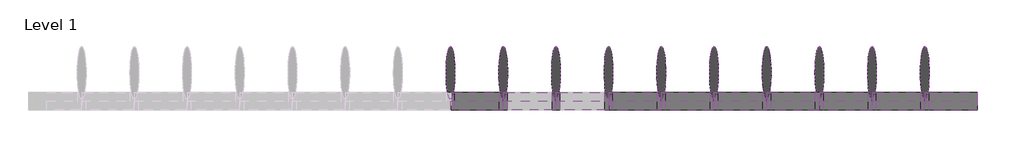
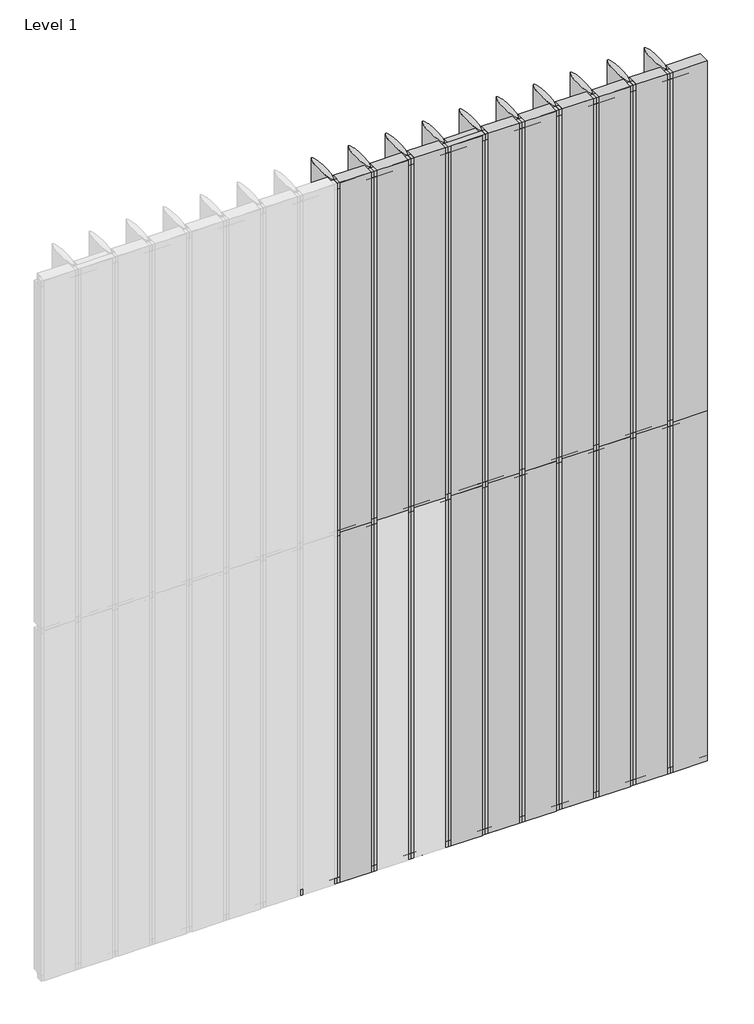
# One storey, part 2 of 2: 51 members, 38 plates.
"""IFC4 building model written with IfcOpenShell, lengths in millimetres."""

from ifc_helpers import new_model, si_unit, origin, place, context, project, spatial, transform, mapped, element, save
from components import rectangular_mullion_489e5dd7, rectangular_mullion_d9db7a7c, rectangular_mullion_bcb65166, rectangular_mullion_906318ec, empty_system_panel_empty_25b61279, empty_system_panel_empty_de0951d3, empty_system_panel_empty_eacbfc0b

model = new_model("IFC4")

# Units and contexts
model_context = context("Model", 3, world=origin())
ifc_project = project(units=[si_unit("LENGTHUNIT", "METRE", prefix="MILLI")], contexts=[model_context])

# Site, building, storey
site = spatial("IfcSite", under=ifc_project)
building = spatial("IfcBuilding", under=site)
storey = spatial("IfcBuildingStorey", under=building, Name="Level 1", Elevation=0.0)

# Members
placement = place(None, origin())
rectangular_mullion_shape = rectangular_mullion_489e5dd7(model_context)
element("IfcMember", 1, ObjectType="Rectangular Mullion : RSen_21_CWM_blade - 300 ellips - 0°_gen_duco projects", at=placement, inside=storey, context=model_context, shape_type="MappedRepresentation", body=[
    mapped(rectangular_mullion_shape, transform((5700.0, 3000.0, 0.0), x_axis=(-1.0, 0.0, 0.0), y_axis=(0.0, 1.0, 0.0), z_axis=(0.0, 0.0, -1.0))),
])
element("IfcMember", 2, ObjectType="Rectangular Mullion : RSen_21_CWM_blade - 300 ellips - 0°_gen_duco projects", at=placement, inside=storey, context=model_context, shape_type="MappedRepresentation", body=[
    mapped(rectangular_mullion_shape, transform((5400.0, 3000.0, 0.0), x_axis=(-1.0, 0.0, 0.0), y_axis=(0.0, 1.0, 0.0), z_axis=(0.0, 0.0, -1.0))),
])
element("IfcMember", 3, ObjectType="Rectangular Mullion : RSen_21_CWM_blade - 300 ellips - 0°_gen_duco projects", at=placement, inside=storey, context=model_context, shape_type="MappedRepresentation", body=[
    mapped(rectangular_mullion_shape, transform((5100.0, 3000.0, 0.0), x_axis=(-1.0, 0.0, 0.0), y_axis=(0.0, 1.0, 0.0), z_axis=(0.0, 0.0, -1.0))),
])
element("IfcMember", 4, ObjectType="Rectangular Mullion : RSen_21_CWM_blade - 300 ellips - 0°_gen_duco projects", at=placement, inside=storey, context=model_context, shape_type="MappedRepresentation", body=[
    mapped(rectangular_mullion_shape, transform((4800.0, 3000.0, 0.0), x_axis=(-1.0, 0.0, 0.0), y_axis=(0.0, 1.0, 0.0), z_axis=(0.0, 0.0, -1.0))),
])
element("IfcMember", 5, ObjectType="Rectangular Mullion : RSen_21_CWM_blade - 300 ellips - 0°_gen_duco projects", at=placement, inside=storey, context=model_context, shape_type="MappedRepresentation", body=[
    mapped(rectangular_mullion_shape, transform((4500.0, 3000.0, 0.0), x_axis=(-1.0, 0.0, 0.0), y_axis=(0.0, 1.0, 0.0), z_axis=(0.0, 0.0, -1.0))),
])
element("IfcMember", 6, ObjectType="Rectangular Mullion : RSen_21_CWM_blade - 300 ellips - 0°_gen_duco projects", at=placement, inside=storey, context=model_context, shape_type="MappedRepresentation", body=[
    mapped(rectangular_mullion_shape, transform((4200.0, 3000.0, 0.0), x_axis=(-1.0, 0.0, 0.0), y_axis=(0.0, 1.0, 0.0), z_axis=(0.0, 0.0, -1.0))),
])
element("IfcMember", 7, ObjectType="Rectangular Mullion : RSen_21_CWM_blade - 300 ellips - 0°_gen_duco projects", at=placement, inside=storey, context=model_context, shape_type="MappedRepresentation", body=[
    mapped(rectangular_mullion_shape, transform((3900.0, 3000.0, 0.0), x_axis=(-1.0, 0.0, 0.0), y_axis=(0.0, 1.0, 0.0), z_axis=(0.0, 0.0, -1.0))),
])
element("IfcMember", 8, ObjectType="Rectangular Mullion : RSen_21_CWM_blade - 300 ellips - 0°_gen_duco projects", at=placement, inside=storey, context=model_context, shape_type="MappedRepresentation", body=[
    mapped(rectangular_mullion_shape, transform((3600.0, 3000.0, 0.0), x_axis=(-1.0, 0.0, 0.0), y_axis=(0.0, 1.0, 0.0), z_axis=(0.0, 0.0, -1.0))),
])
element("IfcMember", 9, ObjectType="Rectangular Mullion : RSen_21_CWM_blade - 300 ellips - 0°_gen_duco projects", at=placement, inside=storey, context=model_context, shape_type="MappedRepresentation", body=[
    mapped(rectangular_mullion_shape, transform((3300.0, 3000.0, 0.0), x_axis=(-1.0, 0.0, 0.0), y_axis=(0.0, 1.0, 0.0), z_axis=(0.0, 0.0, -1.0))),
])
element("IfcMember", 10, ObjectType="Rectangular Mullion : RSen_21_CWM_blade - 300 ellips - 0°_gen_duco projects", at=placement, inside=storey, context=model_context, shape_type="MappedRepresentation", body=[
    mapped(rectangular_mullion_shape, transform((3000.0, 3000.0, 0.0), x_axis=(-1.0, 0.0, 0.0), y_axis=(0.0, 1.0, 0.0), z_axis=(0.0, 0.0, -1.0))),
])
element("IfcMember", 11, ObjectType="Rectangular Mullion : RSen_21_CWM_blade - 300 ellips - 0°_gen_duco projects", at=placement, inside=storey, context=model_context, shape_type="MappedRepresentation", body=[
    mapped(rectangular_mullion_shape, transform((5700.0, 3000.0, 3000.0), x_axis=(-1.0, 0.0, 0.0), y_axis=(0.0, 1.0, 0.0), z_axis=(0.0, 0.0, -1.0))),
])
element("IfcMember", 12, ObjectType="Rectangular Mullion : RSen_21_CWM_blade - 300 ellips - 0°_gen_duco projects", at=placement, inside=storey, context=model_context, shape_type="MappedRepresentation", body=[
    mapped(rectangular_mullion_shape, transform((5400.0, 3000.0, 3000.0), x_axis=(-1.0, 0.0, 0.0), y_axis=(0.0, 1.0, 0.0), z_axis=(0.0, 0.0, -1.0))),
])
element("IfcMember", 13, ObjectType="Rectangular Mullion : RSen_21_CWM_blade - 300 ellips - 0°_gen_duco projects", at=placement, inside=storey, context=model_context, shape_type="MappedRepresentation", body=[
    mapped(rectangular_mullion_shape, transform((5100.0, 3000.0, 3000.0), x_axis=(-1.0, 0.0, 0.0), y_axis=(0.0, 1.0, 0.0), z_axis=(0.0, 0.0, -1.0))),
])
element("IfcMember", 14, ObjectType="Rectangular Mullion : RSen_21_CWM_blade - 300 ellips - 0°_gen_duco projects", at=placement, inside=storey, context=model_context, shape_type="MappedRepresentation", body=[
    mapped(rectangular_mullion_shape, transform((4800.0, 3000.0, 3000.0), x_axis=(-1.0, 0.0, 0.0), y_axis=(0.0, 1.0, 0.0), z_axis=(0.0, 0.0, -1.0))),
])
element("IfcMember", 15, ObjectType="Rectangular Mullion : RSen_21_CWM_blade - 300 ellips - 0°_gen_duco projects", at=placement, inside=storey, context=model_context, shape_type="MappedRepresentation", body=[
    mapped(rectangular_mullion_shape, transform((4500.0, 3000.0, 3000.0), x_axis=(-1.0, 0.0, 0.0), y_axis=(0.0, 1.0, 0.0), z_axis=(0.0, 0.0, -1.0))),
])
element("IfcMember", 16, ObjectType="Rectangular Mullion : RSen_21_CWM_blade - 300 ellips - 0°_gen_duco projects", at=placement, inside=storey, context=model_context, shape_type="MappedRepresentation", body=[
    mapped(rectangular_mullion_shape, transform((4200.0, 3000.0, 3000.0), x_axis=(-1.0, 0.0, 0.0), y_axis=(0.0, 1.0, 0.0), z_axis=(0.0, 0.0, -1.0))),
])
element("IfcMember", 17, ObjectType="Rectangular Mullion : RSen_21_CWM_blade - 300 ellips - 0°_gen_duco projects", at=placement, inside=storey, context=model_context, shape_type="MappedRepresentation", body=[
    mapped(rectangular_mullion_shape, transform((3900.0, 3000.0, 3000.0), x_axis=(-1.0, 0.0, 0.0), y_axis=(0.0, 1.0, 0.0), z_axis=(0.0, 0.0, -1.0))),
])
element("IfcMember", 18, ObjectType="Rectangular Mullion : RSen_21_CWM_blade - 300 ellips - 0°_gen_duco projects", at=placement, inside=storey, context=model_context, shape_type="MappedRepresentation", body=[
    mapped(rectangular_mullion_shape, transform((3600.0, 3000.0, 3000.0), x_axis=(-1.0, 0.0, 0.0), y_axis=(0.0, 1.0, 0.0), z_axis=(0.0, 0.0, -1.0))),
])
element("IfcMember", 19, ObjectType="Rectangular Mullion : RSen_21_CWM_blade - 300 ellips - 0°_gen_duco projects", at=placement, inside=storey, context=model_context, shape_type="MappedRepresentation", body=[
    mapped(rectangular_mullion_shape, transform((3300.0, 3000.0, 3000.0), x_axis=(-1.0, 0.0, 0.0), y_axis=(0.0, 1.0, 0.0), z_axis=(0.0, 0.0, -1.0))),
])
element("IfcMember", 20, ObjectType="Rectangular Mullion : RSen_21_CWM_blade - 300 ellips - 0°_gen_duco projects", at=placement, inside=storey, context=model_context, shape_type="MappedRepresentation", body=[
    mapped(rectangular_mullion_shape, transform((3000.0, 3000.0, 3000.0), x_axis=(-1.0, 0.0, 0.0), y_axis=(0.0, 1.0, 0.0), z_axis=(0.0, 0.0, -1.0))),
])
rectangular_mullion_2_shape = rectangular_mullion_d9db7a7c(model_context)
element("IfcMember", 21, ObjectType="Rectangular Mullion : RSen_21_CWM_support profile 50x50 - right_gen_duco projects", at=placement, inside=storey, context=model_context, shape_type="MappedRepresentation", body=[
    mapped(rectangular_mullion_2_shape, transform((6000.0, 3000.0, 0.0), x_axis=(0.0, 0.0, -1.0), y_axis=(0.0, 1.0, 0.0), z_axis=(1.0, 0.0, 0.0))),
])
rectangular_mullion_3_shape = rectangular_mullion_bcb65166(model_context)
element("IfcMember", 22, ObjectType="Rectangular Mullion : RSen_21_CWM_support profile 50x50 - left_gen_duco projects", at=placement, inside=storey, context=model_context, shape_type="MappedRepresentation", body=[
    mapped(rectangular_mullion_3_shape, transform((5700.0, 3000.0, 6000.0), x_axis=(0.0, 0.0, 1.0), y_axis=(0.0, 1.0, 0.0), z_axis=(-1.0, 0.0, 0.0))),
])
element("IfcMember", 23, ObjectType="Rectangular Mullion : RSen_21_CWM_support profile 50x50 - left_gen_duco projects", at=placement, inside=storey, context=model_context, shape_type="MappedRepresentation", body=[
    mapped(rectangular_mullion_3_shape, transform((5400.0, 3000.0, 6000.0), x_axis=(0.0, 0.0, 1.0), y_axis=(0.0, 1.0, 0.0), z_axis=(-1.0, 0.0, 0.0))),
])
element("IfcMember", 24, ObjectType="Rectangular Mullion : RSen_21_CWM_support profile 50x50 - left_gen_duco projects", at=placement, inside=storey, context=model_context, shape_type="MappedRepresentation", body=[
    mapped(rectangular_mullion_3_shape, transform((5100.0, 3000.0, 6000.0), x_axis=(0.0, 0.0, 1.0), y_axis=(0.0, 1.0, 0.0), z_axis=(-1.0, 0.0, 0.0))),
])
element("IfcMember", 25, ObjectType="Rectangular Mullion : RSen_21_CWM_support profile 50x50 - left_gen_duco projects", at=placement, inside=storey, context=model_context, shape_type="MappedRepresentation", body=[
    mapped(rectangular_mullion_3_shape, transform((4800.0, 3000.0, 6000.0), x_axis=(0.0, 0.0, 1.0), y_axis=(0.0, 1.0, 0.0), z_axis=(-1.0, 0.0, 0.0))),
])
element("IfcMember", 26, ObjectType="Rectangular Mullion : RSen_21_CWM_support profile 50x50 - left_gen_duco projects", at=placement, inside=storey, context=model_context, shape_type="MappedRepresentation", body=[
    mapped(rectangular_mullion_3_shape, transform((4500.0, 3000.0, 6000.0), x_axis=(0.0, 0.0, 1.0), y_axis=(0.0, 1.0, 0.0), z_axis=(-1.0, 0.0, 0.0))),
])
element("IfcMember", 27, ObjectType="Rectangular Mullion : RSen_21_CWM_support profile 50x50 - left_gen_duco projects", at=placement, inside=storey, context=model_context, shape_type="MappedRepresentation", body=[
    mapped(rectangular_mullion_3_shape, transform((4200.0, 3000.0, 6000.0), x_axis=(0.0, 0.0, 1.0), y_axis=(0.0, 1.0, 0.0), z_axis=(-1.0, 0.0, 0.0))),
])
element("IfcMember", 28, ObjectType="Rectangular Mullion : RSen_21_CWM_support profile 50x50 - left_gen_duco projects", at=placement, inside=storey, context=model_context, shape_type="MappedRepresentation", body=[
    mapped(rectangular_mullion_3_shape, transform((3900.0, 3000.0, 6000.0), x_axis=(0.0, 0.0, 1.0), y_axis=(0.0, 1.0, 0.0), z_axis=(-1.0, 0.0, 0.0))),
])
element("IfcMember", 29, ObjectType="Rectangular Mullion : RSen_21_CWM_support profile 50x50 - left_gen_duco projects", at=placement, inside=storey, context=model_context, shape_type="MappedRepresentation", body=[
    mapped(rectangular_mullion_3_shape, transform((3600.0, 3000.0, 6000.0), x_axis=(0.0, 0.0, 1.0), y_axis=(0.0, 1.0, 0.0), z_axis=(-1.0, 0.0, 0.0))),
])
element("IfcMember", 30, ObjectType="Rectangular Mullion : RSen_21_CWM_support profile 50x50 - left_gen_duco projects", at=placement, inside=storey, context=model_context, shape_type="MappedRepresentation", body=[
    mapped(rectangular_mullion_3_shape, transform((3300.0, 3000.0, 6000.0), x_axis=(0.0, 0.0, 1.0), y_axis=(0.0, 1.0, 0.0), z_axis=(-1.0, 0.0, 0.0))),
])
element("IfcMember", 31, ObjectType="Rectangular Mullion : RSen_21_CWM_support profile 50x50 - left_gen_duco projects", at=placement, inside=storey, context=model_context, shape_type="MappedRepresentation", body=[
    mapped(rectangular_mullion_3_shape, transform((3000.0, 3000.0, 6000.0), x_axis=(0.0, 0.0, 1.0), y_axis=(0.0, 1.0, 0.0), z_axis=(-1.0, 0.0, 0.0))),
])
element("IfcMember", 32, ObjectType="Rectangular Mullion : RSen_21_CWM_support profile 50x50 - right_gen_duco projects", at=placement, inside=storey, context=model_context, shape_type="MappedRepresentation", body=[
    mapped(rectangular_mullion_2_shape, transform((5700.0, 3000.0, 0.0), x_axis=(0.0, 0.0, -1.0), y_axis=(0.0, 1.0, 0.0), z_axis=(1.0, 0.0, 0.0))),
])
element("IfcMember", 33, ObjectType="Rectangular Mullion : RSen_21_CWM_support profile 50x50 - right_gen_duco projects", at=placement, inside=storey, context=model_context, shape_type="MappedRepresentation", body=[
    mapped(rectangular_mullion_2_shape, transform((5400.0, 3000.0, 0.0), x_axis=(0.0, 0.0, -1.0), y_axis=(0.0, 1.0, 0.0), z_axis=(1.0, 0.0, 0.0))),
])
element("IfcMember", 34, ObjectType="Rectangular Mullion : RSen_21_CWM_support profile 50x50 - right_gen_duco projects", at=placement, inside=storey, context=model_context, shape_type="MappedRepresentation", body=[
    mapped(rectangular_mullion_2_shape, transform((5100.0, 3000.0, 0.0), x_axis=(0.0, 0.0, -1.0), y_axis=(0.0, 1.0, 0.0), z_axis=(1.0, 0.0, 0.0))),
])
element("IfcMember", 35, ObjectType="Rectangular Mullion : RSen_21_CWM_support profile 50x50 - right_gen_duco projects", at=placement, inside=storey, context=model_context, shape_type="MappedRepresentation", body=[
    mapped(rectangular_mullion_2_shape, transform((4800.0, 3000.0, 0.0), x_axis=(0.0, 0.0, -1.0), y_axis=(0.0, 1.0, 0.0), z_axis=(1.0, 0.0, 0.0))),
])
element("IfcMember", 36, ObjectType="Rectangular Mullion : RSen_21_CWM_support profile 50x50 - right_gen_duco projects", at=placement, inside=storey, context=model_context, shape_type="MappedRepresentation", body=[
    mapped(rectangular_mullion_2_shape, transform((4500.0, 3000.0, 0.0), x_axis=(0.0, 0.0, -1.0), y_axis=(0.0, 1.0, 0.0), z_axis=(1.0, 0.0, 0.0))),
])
element("IfcMember", 37, ObjectType="Rectangular Mullion : RSen_21_CWM_support profile 50x50 - right_gen_duco projects", at=placement, inside=storey, context=model_context, shape_type="MappedRepresentation", body=[
    mapped(rectangular_mullion_2_shape, transform((4200.0, 3000.0, 0.0), x_axis=(0.0, 0.0, -1.0), y_axis=(0.0, 1.0, 0.0), z_axis=(1.0, 0.0, 0.0))),
])
element("IfcMember", 38, ObjectType="Rectangular Mullion : RSen_21_CWM_support profile 50x50 - right_gen_duco projects", at=placement, inside=storey, context=model_context, shape_type="MappedRepresentation", body=[
    mapped(rectangular_mullion_2_shape, transform((3900.0, 3000.0, 0.0), x_axis=(0.0, 0.0, -1.0), y_axis=(0.0, 1.0, 0.0), z_axis=(1.0, 0.0, 0.0))),
])
element("IfcMember", 39, ObjectType="Rectangular Mullion : RSen_21_CWM_support profile 50x50 - right_gen_duco projects", at=placement, inside=storey, context=model_context, shape_type="MappedRepresentation", body=[
    mapped(rectangular_mullion_2_shape, transform((3600.0, 3000.0, 0.0), x_axis=(0.0, 0.0, -1.0), y_axis=(0.0, 1.0, 0.0), z_axis=(1.0, 0.0, 0.0))),
])
element("IfcMember", 40, ObjectType="Rectangular Mullion : RSen_21_CWM_support profile 50x50 - right_gen_duco projects", at=placement, inside=storey, context=model_context, shape_type="MappedRepresentation", body=[
    mapped(rectangular_mullion_2_shape, transform((3300.0, 3000.0, 0.0), x_axis=(0.0, 0.0, -1.0), y_axis=(0.0, 1.0, 0.0), z_axis=(1.0, 0.0, 0.0))),
])
element("IfcMember", 41, ObjectType="Rectangular Mullion : RSen_21_CWM_support profile 50x50 - right_gen_duco projects", at=placement, inside=storey, context=model_context, shape_type="MappedRepresentation", body=[
    mapped(rectangular_mullion_2_shape, transform((3000.0, 3000.0, 0.0), x_axis=(0.0, 0.0, -1.0), y_axis=(0.0, 1.0, 0.0), z_axis=(1.0, 0.0, 0.0))),
])
rectangular_mullion_4_shape = rectangular_mullion_906318ec(model_context)
element("IfcMember", 42, ObjectType="Rectangular Mullion : RSen_21_CWM_support profile 50x50_gen_duco projects", at=placement, inside=storey, context=model_context, shape_type="MappedRepresentation", body=[
    mapped(rectangular_mullion_4_shape, transform((5700.0, 3000.0, 3000.0), x_axis=(0.0, 0.0, 1.0), y_axis=(0.0, 1.0, 0.0), z_axis=(-1.0, 0.0, 0.0))),
])
element("IfcMember", 43, ObjectType="Rectangular Mullion : RSen_21_CWM_support profile 50x50_gen_duco projects", at=placement, inside=storey, context=model_context, shape_type="MappedRepresentation", body=[
    mapped(rectangular_mullion_4_shape, transform((5400.0, 3000.0, 3000.0), x_axis=(0.0, 0.0, 1.0), y_axis=(0.0, 1.0, 0.0), z_axis=(-1.0, 0.0, 0.0))),
])
element("IfcMember", 44, ObjectType="Rectangular Mullion : RSen_21_CWM_support profile 50x50_gen_duco projects", at=placement, inside=storey, context=model_context, shape_type="MappedRepresentation", body=[
    mapped(rectangular_mullion_4_shape, transform((5100.0, 3000.0, 3000.0), x_axis=(0.0, 0.0, 1.0), y_axis=(0.0, 1.0, 0.0), z_axis=(-1.0, 0.0, 0.0))),
])
element("IfcMember", 45, ObjectType="Rectangular Mullion : RSen_21_CWM_support profile 50x50_gen_duco projects", at=placement, inside=storey, context=model_context, shape_type="MappedRepresentation", body=[
    mapped(rectangular_mullion_4_shape, transform((4800.0, 3000.0, 3000.0), x_axis=(0.0, 0.0, 1.0), y_axis=(0.0, 1.0, 0.0), z_axis=(-1.0, 0.0, 0.0))),
])
element("IfcMember", 46, ObjectType="Rectangular Mullion : RSen_21_CWM_support profile 50x50_gen_duco projects", at=placement, inside=storey, context=model_context, shape_type="MappedRepresentation", body=[
    mapped(rectangular_mullion_4_shape, transform((4500.0, 3000.0, 3000.0), x_axis=(0.0, 0.0, 1.0), y_axis=(0.0, 1.0, 0.0), z_axis=(-1.0, 0.0, 0.0))),
])
element("IfcMember", 47, ObjectType="Rectangular Mullion : RSen_21_CWM_support profile 50x50_gen_duco projects", at=placement, inside=storey, context=model_context, shape_type="MappedRepresentation", body=[
    mapped(rectangular_mullion_4_shape, transform((4200.0, 3000.0, 3000.0), x_axis=(0.0, 0.0, 1.0), y_axis=(0.0, 1.0, 0.0), z_axis=(-1.0, 0.0, 0.0))),
])
element("IfcMember", 48, ObjectType="Rectangular Mullion : RSen_21_CWM_support profile 50x50_gen_duco projects", at=placement, inside=storey, context=model_context, shape_type="MappedRepresentation", body=[
    mapped(rectangular_mullion_4_shape, transform((3900.0, 3000.0, 3000.0), x_axis=(0.0, 0.0, 1.0), y_axis=(0.0, 1.0, 0.0), z_axis=(-1.0, 0.0, 0.0))),
])
element("IfcMember", 49, ObjectType="Rectangular Mullion : RSen_21_CWM_support profile 50x50_gen_duco projects", at=placement, inside=storey, context=model_context, shape_type="MappedRepresentation", body=[
    mapped(rectangular_mullion_4_shape, transform((3600.0, 3000.0, 3000.0), x_axis=(0.0, 0.0, 1.0), y_axis=(0.0, 1.0, 0.0), z_axis=(-1.0, 0.0, 0.0))),
])
element("IfcMember", 50, ObjectType="Rectangular Mullion : RSen_21_CWM_support profile 50x50_gen_duco projects", at=placement, inside=storey, context=model_context, shape_type="MappedRepresentation", body=[
    mapped(rectangular_mullion_4_shape, transform((3300.0, 3000.0, 3000.0), x_axis=(0.0, 0.0, 1.0), y_axis=(0.0, 1.0, 0.0), z_axis=(-1.0, 0.0, 0.0))),
])
element("IfcMember", 51, ObjectType="Rectangular Mullion : RSen_21_CWM_support profile 50x50_gen_duco projects", at=placement, inside=storey, context=model_context, shape_type="MappedRepresentation", body=[
    mapped(rectangular_mullion_4_shape, transform((3000.0, 3000.0, 3000.0), x_axis=(0.0, 0.0, 1.0), y_axis=(0.0, 1.0, 0.0), z_axis=(-1.0, 0.0, 0.0))),
])

# Plates
empty_system_panel_empty_shape = empty_system_panel_empty_25b61279(model_context)
element("IfcPlate", 52, ObjectType="Empty System Panel : Empty", at=placement, inside=storey, context=model_context, shape_type="MappedRepresentation", body=[
    mapped(empty_system_panel_empty_shape, transform((5862.5, 3000.0, 0.0), x_axis=(-1.0, 0.0, 0.0), y_axis=(0.0, -1.0, 0.0), z_axis=(0.0, 0.0, 1.0))),
])
element("IfcPlate", 53, ObjectType="Empty System Panel : Empty", at=placement, inside=storey, context=model_context, shape_type="MappedRepresentation", body=[
    mapped(empty_system_panel_empty_shape, transform((5862.5, 3000.0, 3000.0), x_axis=(-1.0, 0.0, 0.0), y_axis=(0.0, -1.0, 0.0), z_axis=(0.0, 0.0, 1.0))),
])
empty_system_panel_empty_2_shape = empty_system_panel_empty_de0951d3(model_context)
element("IfcPlate", 54, ObjectType="Empty System Panel : Empty", at=placement, inside=storey, context=model_context, shape_type="MappedRepresentation", body=[
    mapped(empty_system_panel_empty_2_shape, transform((5550.0, 3000.0, 0.0), x_axis=(-1.0, 0.0, 0.0), y_axis=(0.0, -1.0, 0.0), z_axis=(0.0, 0.0, 1.0))),
])
element("IfcPlate", 55, ObjectType="Empty System Panel : Empty", at=placement, inside=storey, context=model_context, shape_type="MappedRepresentation", body=[
    mapped(empty_system_panel_empty_2_shape, transform((5250.0, 3000.0, 0.0), x_axis=(-1.0, 0.0, 0.0), y_axis=(0.0, -1.0, 0.0), z_axis=(0.0, 0.0, 1.0))),
])
element("IfcPlate", 56, ObjectType="Empty System Panel : Empty", at=placement, inside=storey, context=model_context, shape_type="MappedRepresentation", body=[
    mapped(empty_system_panel_empty_2_shape, transform((4950.0, 3000.0, 0.0), x_axis=(-1.0, 0.0, 0.0), y_axis=(0.0, -1.0, 0.0), z_axis=(0.0, 0.0, 1.0))),
])
element("IfcPlate", 57, ObjectType="Empty System Panel : Empty", at=placement, inside=storey, context=model_context, shape_type="MappedRepresentation", body=[
    mapped(empty_system_panel_empty_2_shape, transform((4650.0, 3000.0, 0.0), x_axis=(-1.0, 0.0, 0.0), y_axis=(0.0, -1.0, 0.0), z_axis=(0.0, 0.0, 1.0))),
])
element("IfcPlate", 58, ObjectType="Empty System Panel : Empty", at=placement, inside=storey, context=model_context, shape_type="MappedRepresentation", body=[
    mapped(empty_system_panel_empty_2_shape, transform((4350.0, 3000.0, 0.0), x_axis=(-1.0, 0.0, 0.0), y_axis=(0.0, -1.0, 0.0), z_axis=(0.0, 0.0, 1.0))),
])
element("IfcPlate", 59, ObjectType="Empty System Panel : Empty", at=placement, inside=storey, context=model_context, shape_type="MappedRepresentation", body=[
    mapped(empty_system_panel_empty_2_shape, transform((4050.0, 3000.0, 0.0), x_axis=(-1.0, 0.0, 0.0), y_axis=(0.0, -1.0, 0.0), z_axis=(0.0, 0.0, 1.0))),
])
element("IfcPlate", 60, ObjectType="Empty System Panel : Empty", at=placement, inside=storey, context=model_context, shape_type="MappedRepresentation", body=[
    mapped(empty_system_panel_empty_2_shape, transform((3150.0, 3000.0, 0.0), x_axis=(-1.0, 0.0, 0.0), y_axis=(0.0, -1.0, 0.0), z_axis=(0.0, 0.0, 1.0))),
])
element("IfcPlate", 61, ObjectType="Empty System Panel : Empty", at=placement, inside=storey, context=model_context, shape_type="MappedRepresentation", body=[
    mapped(empty_system_panel_empty_2_shape, transform((5550.0, 3000.0, 3000.0), x_axis=(-1.0, 0.0, 0.0), y_axis=(0.0, -1.0, 0.0), z_axis=(0.0, 0.0, 1.0))),
])
element("IfcPlate", 62, ObjectType="Empty System Panel : Empty", at=placement, inside=storey, context=model_context, shape_type="MappedRepresentation", body=[
    mapped(empty_system_panel_empty_2_shape, transform((5250.0, 3000.0, 3000.0), x_axis=(-1.0, 0.0, 0.0), y_axis=(0.0, -1.0, 0.0), z_axis=(0.0, 0.0, 1.0))),
])
element("IfcPlate", 63, ObjectType="Empty System Panel : Empty", at=placement, inside=storey, context=model_context, shape_type="MappedRepresentation", body=[
    mapped(empty_system_panel_empty_2_shape, transform((4950.0, 3000.0, 3000.0), x_axis=(-1.0, 0.0, 0.0), y_axis=(0.0, -1.0, 0.0), z_axis=(0.0, 0.0, 1.0))),
])
element("IfcPlate", 64, ObjectType="Empty System Panel : Empty", at=placement, inside=storey, context=model_context, shape_type="MappedRepresentation", body=[
    mapped(empty_system_panel_empty_2_shape, transform((4650.0, 3000.0, 3000.0), x_axis=(-1.0, 0.0, 0.0), y_axis=(0.0, -1.0, 0.0), z_axis=(0.0, 0.0, 1.0))),
])
element("IfcPlate", 65, ObjectType="Empty System Panel : Empty", at=placement, inside=storey, context=model_context, shape_type="MappedRepresentation", body=[
    mapped(empty_system_panel_empty_2_shape, transform((4350.0, 3000.0, 3000.0), x_axis=(-1.0, 0.0, 0.0), y_axis=(0.0, -1.0, 0.0), z_axis=(0.0, 0.0, 1.0))),
])
element("IfcPlate", 66, ObjectType="Empty System Panel : Empty", at=placement, inside=storey, context=model_context, shape_type="MappedRepresentation", body=[
    mapped(empty_system_panel_empty_2_shape, transform((4050.0, 3000.0, 3000.0), x_axis=(-1.0, 0.0, 0.0), y_axis=(0.0, -1.0, 0.0), z_axis=(0.0, 0.0, 1.0))),
])
element("IfcPlate", 67, ObjectType="Empty System Panel : Empty", at=placement, inside=storey, context=model_context, shape_type="MappedRepresentation", body=[
    mapped(empty_system_panel_empty_2_shape, transform((3750.0, 3000.0, 3000.0), x_axis=(-1.0, 0.0, 0.0), y_axis=(0.0, -1.0, 0.0), z_axis=(0.0, 0.0, 1.0))),
])
element("IfcPlate", 68, ObjectType="Empty System Panel : Empty", at=placement, inside=storey, context=model_context, shape_type="MappedRepresentation", body=[
    mapped(empty_system_panel_empty_2_shape, transform((3450.0, 3000.0, 3000.0), x_axis=(-1.0, 0.0, 0.0), y_axis=(0.0, -1.0, 0.0), z_axis=(0.0, 0.0, 1.0))),
])
element("IfcPlate", 69, ObjectType="Empty System Panel : Empty", at=placement, inside=storey, context=model_context, shape_type="MappedRepresentation", body=[
    mapped(empty_system_panel_empty_2_shape, transform((3150.0, 3000.0, 3000.0), x_axis=(-1.0, 0.0, 0.0), y_axis=(0.0, -1.0, 0.0), z_axis=(0.0, 0.0, 1.0))),
])
empty_system_panel_empty_3_shape = empty_system_panel_empty_eacbfc0b(model_context)
element("IfcPlate", 70, ObjectType="Empty System Panel : Empty", at=placement, inside=storey, context=model_context, shape_type="MappedRepresentation", body=[
    mapped(empty_system_panel_empty_3_shape, transform((5850.0, 3000.0, 50.0), x_axis=(-1.0, 0.0, 0.0), y_axis=(0.0, -1.0, 0.0), z_axis=(0.0, 0.0, 1.0))),
])
element("IfcPlate", 71, ObjectType="Empty System Panel : Empty", at=placement, inside=storey, context=model_context, shape_type="MappedRepresentation", body=[
    mapped(empty_system_panel_empty_3_shape, transform((5550.0, 3000.0, 50.0), x_axis=(-1.0, 0.0, 0.0), y_axis=(0.0, -1.0, 0.0), z_axis=(0.0, 0.0, 1.0))),
])
element("IfcPlate", 72, ObjectType="Empty System Panel : Empty", at=placement, inside=storey, context=model_context, shape_type="MappedRepresentation", body=[
    mapped(empty_system_panel_empty_3_shape, transform((5250.0, 3000.0, 50.0), x_axis=(-1.0, 0.0, 0.0), y_axis=(0.0, -1.0, 0.0), z_axis=(0.0, 0.0, 1.0))),
])
element("IfcPlate", 73, ObjectType="Empty System Panel : Empty", at=placement, inside=storey, context=model_context, shape_type="MappedRepresentation", body=[
    mapped(empty_system_panel_empty_3_shape, transform((4950.0, 3000.0, 50.0), x_axis=(-1.0, 0.0, 0.0), y_axis=(0.0, -1.0, 0.0), z_axis=(0.0, 0.0, 1.0))),
])
element("IfcPlate", 74, ObjectType="Empty System Panel : Empty", at=placement, inside=storey, context=model_context, shape_type="MappedRepresentation", body=[
    mapped(empty_system_panel_empty_3_shape, transform((4650.0, 3000.0, 50.0), x_axis=(-1.0, 0.0, 0.0), y_axis=(0.0, -1.0, 0.0), z_axis=(0.0, 0.0, 1.0))),
])
element("IfcPlate", 75, ObjectType="Empty System Panel : Empty", at=placement, inside=storey, context=model_context, shape_type="MappedRepresentation", body=[
    mapped(empty_system_panel_empty_3_shape, transform((4350.0, 3000.0, 50.0), x_axis=(-1.0, 0.0, 0.0), y_axis=(0.0, -1.0, 0.0), z_axis=(0.0, 0.0, 1.0))),
])
element("IfcPlate", 76, ObjectType="Empty System Panel : Empty", at=placement, inside=storey, context=model_context, shape_type="MappedRepresentation", body=[
    mapped(empty_system_panel_empty_3_shape, transform((4050.0, 3000.0, 50.0), x_axis=(-1.0, 0.0, 0.0), y_axis=(0.0, -1.0, 0.0), z_axis=(0.0, 0.0, 1.0))),
])
element("IfcPlate", 77, ObjectType="Empty System Panel : Empty", at=placement, inside=storey, context=model_context, shape_type="MappedRepresentation", body=[
    mapped(empty_system_panel_empty_3_shape, transform((3750.0, 3000.0, 50.0), x_axis=(-1.0, 0.0, 0.0), y_axis=(0.0, -1.0, 0.0), z_axis=(0.0, 0.0, 1.0))),
])
element("IfcPlate", 78, ObjectType="Empty System Panel : Empty", at=placement, inside=storey, context=model_context, shape_type="MappedRepresentation", body=[
    mapped(empty_system_panel_empty_3_shape, transform((3450.0, 3000.0, 50.0), x_axis=(-1.0, 0.0, 0.0), y_axis=(0.0, -1.0, 0.0), z_axis=(0.0, 0.0, 1.0))),
])
element("IfcPlate", 79, ObjectType="Empty System Panel : Empty", at=placement, inside=storey, context=model_context, shape_type="MappedRepresentation", body=[
    mapped(empty_system_panel_empty_3_shape, transform((3150.0, 3000.0, 50.0), x_axis=(-1.0, 0.0, 0.0), y_axis=(0.0, -1.0, 0.0), z_axis=(0.0, 0.0, 1.0))),
])
element("IfcPlate", 80, ObjectType="Empty System Panel : Empty", at=placement, inside=storey, context=model_context, shape_type="MappedRepresentation", body=[
    mapped(empty_system_panel_empty_3_shape, transform((5850.0, 3000.0, 3025.0), x_axis=(-1.0, 0.0, 0.0), y_axis=(0.0, -1.0, 0.0), z_axis=(0.0, 0.0, 1.0))),
])
element("IfcPlate", 81, ObjectType="Empty System Panel : Empty", at=placement, inside=storey, context=model_context, shape_type="MappedRepresentation", body=[
    mapped(empty_system_panel_empty_3_shape, transform((5550.0, 3000.0, 3025.0), x_axis=(-1.0, 0.0, 0.0), y_axis=(0.0, -1.0, 0.0), z_axis=(0.0, 0.0, 1.0))),
])
element("IfcPlate", 82, ObjectType="Empty System Panel : Empty", at=placement, inside=storey, context=model_context, shape_type="MappedRepresentation", body=[
    mapped(empty_system_panel_empty_3_shape, transform((5250.0, 3000.0, 3025.0), x_axis=(-1.0, 0.0, 0.0), y_axis=(0.0, -1.0, 0.0), z_axis=(0.0, 0.0, 1.0))),
])
element("IfcPlate", 83, ObjectType="Empty System Panel : Empty", at=placement, inside=storey, context=model_context, shape_type="MappedRepresentation", body=[
    mapped(empty_system_panel_empty_3_shape, transform((4950.0, 3000.0, 3025.0), x_axis=(-1.0, 0.0, 0.0), y_axis=(0.0, -1.0, 0.0), z_axis=(0.0, 0.0, 1.0))),
])
element("IfcPlate", 84, ObjectType="Empty System Panel : Empty", at=placement, inside=storey, context=model_context, shape_type="MappedRepresentation", body=[
    mapped(empty_system_panel_empty_3_shape, transform((4650.0, 3000.0, 3025.0), x_axis=(-1.0, 0.0, 0.0), y_axis=(0.0, -1.0, 0.0), z_axis=(0.0, 0.0, 1.0))),
])
element("IfcPlate", 85, ObjectType="Empty System Panel : Empty", at=placement, inside=storey, context=model_context, shape_type="MappedRepresentation", body=[
    mapped(empty_system_panel_empty_3_shape, transform((4350.0, 3000.0, 3025.0), x_axis=(-1.0, 0.0, 0.0), y_axis=(0.0, -1.0, 0.0), z_axis=(0.0, 0.0, 1.0))),
])
element("IfcPlate", 86, ObjectType="Empty System Panel : Empty", at=placement, inside=storey, context=model_context, shape_type="MappedRepresentation", body=[
    mapped(empty_system_panel_empty_3_shape, transform((4050.0, 3000.0, 3025.0), x_axis=(-1.0, 0.0, 0.0), y_axis=(0.0, -1.0, 0.0), z_axis=(0.0, 0.0, 1.0))),
])
element("IfcPlate", 87, ObjectType="Empty System Panel : Empty", at=placement, inside=storey, context=model_context, shape_type="MappedRepresentation", body=[
    mapped(empty_system_panel_empty_3_shape, transform((3750.0, 3000.0, 3025.0), x_axis=(-1.0, 0.0, 0.0), y_axis=(0.0, -1.0, 0.0), z_axis=(0.0, 0.0, 1.0))),
])
element("IfcPlate", 88, ObjectType="Empty System Panel : Empty", at=placement, inside=storey, context=model_context, shape_type="MappedRepresentation", body=[
    mapped(empty_system_panel_empty_3_shape, transform((3450.0, 3000.0, 3025.0), x_axis=(-1.0, 0.0, 0.0), y_axis=(0.0, -1.0, 0.0), z_axis=(0.0, 0.0, 1.0))),
])
element("IfcPlate", 89, ObjectType="Empty System Panel : Empty", at=placement, inside=storey, context=model_context, shape_type="MappedRepresentation", body=[
    mapped(empty_system_panel_empty_3_shape, transform((3150.0, 3000.0, 3025.0), x_axis=(-1.0, 0.0, 0.0), y_axis=(0.0, -1.0, 0.0), z_axis=(0.0, 0.0, 1.0))),
])

save(model, "model.ifc")
